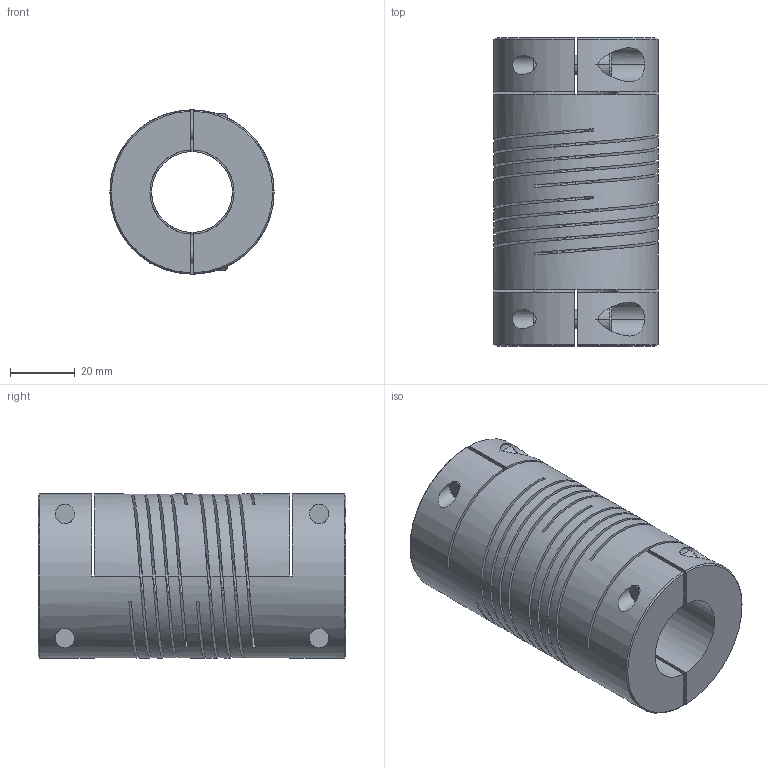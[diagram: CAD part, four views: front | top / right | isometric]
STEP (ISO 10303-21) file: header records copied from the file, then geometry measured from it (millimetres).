
FILE_DESCRIPTION((''),'2;1');
FILE_NAME('703_51','2006-12-06T',('Gary Melling'),(''),'PRO/ENGINEER BY PARAMETRIC TECHNOLOGY CORPORATION, 2006240','PRO/ENGINEER BY PARAMETRIC TECHNOLOGY CORPORATION, 2006240','');
FILE_SCHEMA(('CONFIG_CONTROL_DESIGN'));
Length unit declared in the file: millimetre
Products named in the file (1): 703_51
Bounding box: 50.8 x 95.3 x 50.8 mm (x, y, z)
Volume: 129110.7 mm3; surface area: 57638.4 mm2
Topology: 1 solids, 1 shells, 166 faces, 452 edges, 292 vertices
Faces by surface type: plane 78, cylinder 64, bspline 12, cone 12
Entity records: 7705 total; most frequent: CARTESIAN_POINT 3617, ORIENTED_EDGE 904, DIRECTION 736, EDGE_CURVE 452, VERTEX_POINT 292, AXIS2_PLACEMENT_3D 246, VECTOR 244, LINE 244
